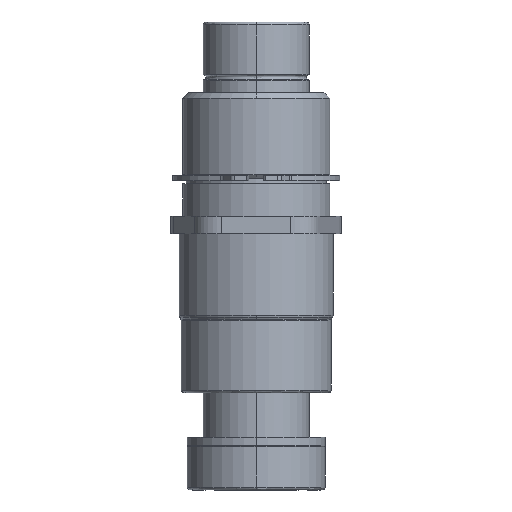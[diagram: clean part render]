
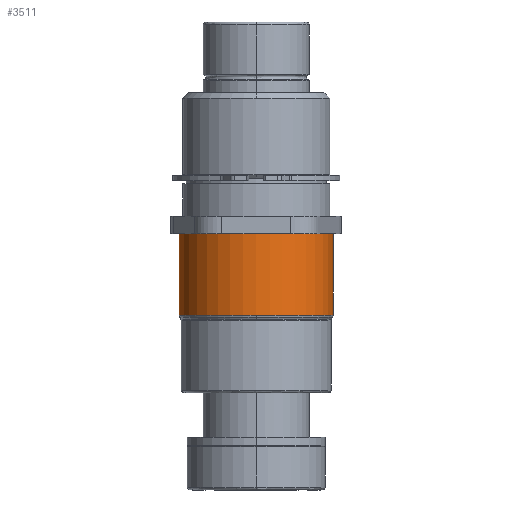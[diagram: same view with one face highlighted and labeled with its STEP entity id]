
A CAD part, left-side view. The second image highlights one B-rep face of the part: STEP entity #3511.
In plain terms, the highlighted cylindrical face has radius 27.678 mm (diameter 55.357 mm), a partial arc.
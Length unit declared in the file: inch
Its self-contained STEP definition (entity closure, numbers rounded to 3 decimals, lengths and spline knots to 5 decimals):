
#133 = CARTESIAN_POINT ( 'NONE',  ( 0., 0., 1.0897 ) ) ;
#238 = AXIS2_PLACEMENT_3D ( 'NONE', #4036, #4799, #4023 ) ;
#302 = CARTESIAN_POINT ( 'NONE',  ( 0., -1.1481, 1.0897 ) ) ;
#340 = CIRCLE ( 'NONE', #4829, 1.0897 ) ;
#355 = DIRECTION ( 'NONE',  ( 0., 1., 0. ) ) ;
#543 = VERTEX_POINT ( 'NONE', #4914 ) ;
#602 = VECTOR ( 'NONE', #676, 39.37008 ) ;
#676 = DIRECTION ( 'NONE',  ( 0., 1., 0. ) ) ;
#885 = ORIENTED_EDGE ( 'NONE', *, *, #3392, .T. ) ;
#897 = CARTESIAN_POINT ( 'NONE',  ( 0., -1.25, -1.0897 ) ) ;
#907 = EDGE_LOOP ( 'NONE', ( #4015, #2429, #1475, #3001, #885 ) ) ;
#936 = FACE_OUTER_BOUND ( 'NONE', #907, .T. ) ;
#995 = DIRECTION ( 'NONE',  ( 0., 0., 1. ) ) ;
#1230 = EDGE_CURVE ( 'NONE', #543, #2148, #1808, .T. ) ;
#1381 = DIRECTION ( 'NONE',  ( 0., -1., 0. ) ) ;
#1428 = CIRCLE ( 'NONE', #238, 1.0897 ) ;
#1475 = ORIENTED_EDGE ( 'NONE', *, *, #3412, .F. ) ;
#1610 = DIRECTION ( 'NONE',  ( 0., -1., 0. ) ) ;
#1735 = CARTESIAN_POINT ( 'NONE',  ( 0., 0., 0. ) ) ;
#1808 = LINE ( 'NONE', #897, #3876 ) ;
#1890 = EDGE_CURVE ( 'NONE', #2980, #3774, #3992, .T. ) ;
#1997 = DIRECTION ( 'NONE',  ( -1., 0., 0. ) ) ;
#2030 = DIRECTION ( 'NONE',  ( 0., 1., 0. ) ) ;
#2148 = VERTEX_POINT ( 'NONE', #2988 ) ;
#2429 = ORIENTED_EDGE ( 'NONE', *, *, #2523, .F. ) ;
#2462 = CARTESIAN_POINT ( 'NONE',  ( -1.0897, -1.1481, 0. ) ) ;
#2523 = EDGE_CURVE ( 'NONE', #3979, #543, #340, .T. ) ;
#2576 = CIRCLE ( 'NONE', #3383, 1.0897 ) ;
#2664 = CARTESIAN_POINT ( 'NONE',  ( 0., -1.25, 0. ) ) ;
#2980 = VERTEX_POINT ( 'NONE', #302 ) ;
#2988 = CARTESIAN_POINT ( 'NONE',  ( 0., 0., -1.0897 ) ) ;
#3001 = ORIENTED_EDGE ( 'NONE', *, *, #1890, .T. ) ;
#3275 = AXIS2_PLACEMENT_3D ( 'NONE', #2664, #355, #4941 ) ;
#3383 = AXIS2_PLACEMENT_3D ( 'NONE', #1735, #1381, #995 ) ;
#3392 = EDGE_CURVE ( 'NONE', #3774, #2148, #2576, .T. ) ;
#3412 = EDGE_CURVE ( 'NONE', #2980, #3979, #1428, .T. ) ;
#3511 = ADVANCED_FACE ( 'NONE', ( #936 ), #3847, .T. ) ;
#3774 = VERTEX_POINT ( 'NONE', #133 ) ;
#3847 = CYLINDRICAL_SURFACE ( 'NONE', #3275, 1.0897 ) ;
#3876 = VECTOR ( 'NONE', #2030, 39.37008 ) ;
#3933 = CARTESIAN_POINT ( 'NONE',  ( 0., -1.1481, 0. ) ) ;
#3979 = VERTEX_POINT ( 'NONE', #2462 ) ;
#3992 = LINE ( 'NONE', #4895, #602 ) ;
#4015 = ORIENTED_EDGE ( 'NONE', *, *, #1230, .F. ) ;
#4023 = DIRECTION ( 'NONE',  ( -1., 0., 0. ) ) ;
#4036 = CARTESIAN_POINT ( 'NONE',  ( 0., -1.1481, 0. ) ) ;
#4799 = DIRECTION ( 'NONE',  ( 0., -1., 0. ) ) ;
#4829 = AXIS2_PLACEMENT_3D ( 'NONE', #3933, #1610, #1997 ) ;
#4895 = CARTESIAN_POINT ( 'NONE',  ( 0., -1.25, 1.0897 ) ) ;
#4914 = CARTESIAN_POINT ( 'NONE',  ( 0., -1.1481, -1.0897 ) ) ;
#4941 = DIRECTION ( 'NONE',  ( 0., 0., 1. ) ) ;
